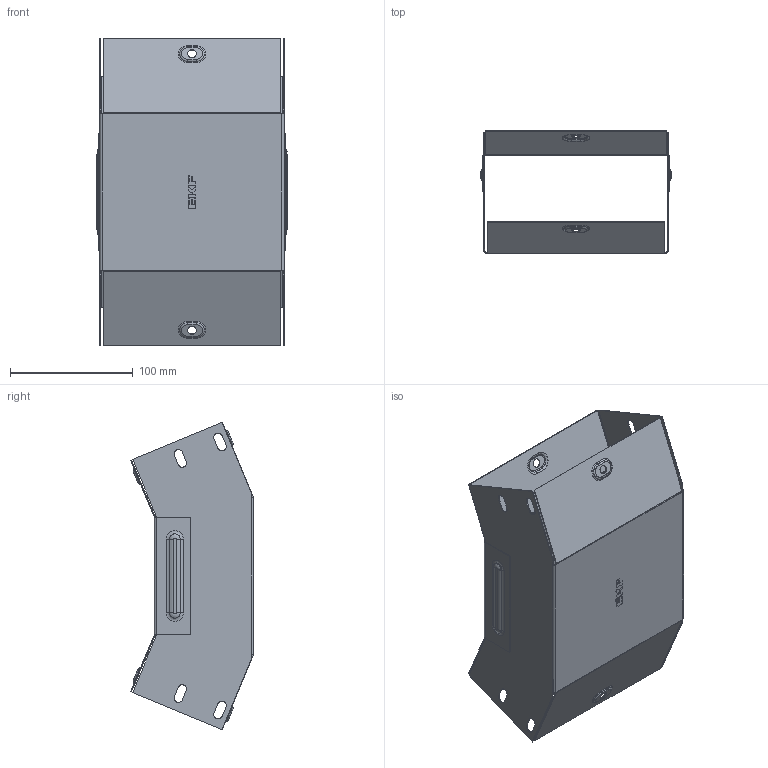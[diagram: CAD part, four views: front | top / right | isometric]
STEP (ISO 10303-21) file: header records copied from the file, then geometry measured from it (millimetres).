
FILE_DESCRIPTION (( 'STEP AP214' ), '1' );
FILE_NAME ('vi4580150_捘.STEP', '2019-06-10T08:31:49', ( '砐錪賧瘔蠈錪 Windows' ), ( '' ), 'SwSTEP 2.0', 'SolidWorks 2018', '' );
FILE_SCHEMA (( 'AUTOMOTIVE_DESIGN' ));
Length unit declared in the file: millimetre
Products named in the file (1): vi4580150_捘
Bounding box: 155.6 x 99.93 x 250.25 mm (x, y, z)
Volume: 86665.5 mm3; surface area: 218851.9 mm2
Topology: 2 solids, 2 shells, 436 faces, 1116 edges, 712 vertices
Faces by surface type: plane 230, cylinder 124, torus 64, bspline 18
Entity records: 14120 total; most frequent: CARTESIAN_POINT 3284, DIRECTION 2262, ORIENTED_EDGE 2232, EDGE_CURVE 1116, AXIS2_PLACEMENT_3D 763, VECTOR 736, LINE 736, VERTEX_POINT 712
